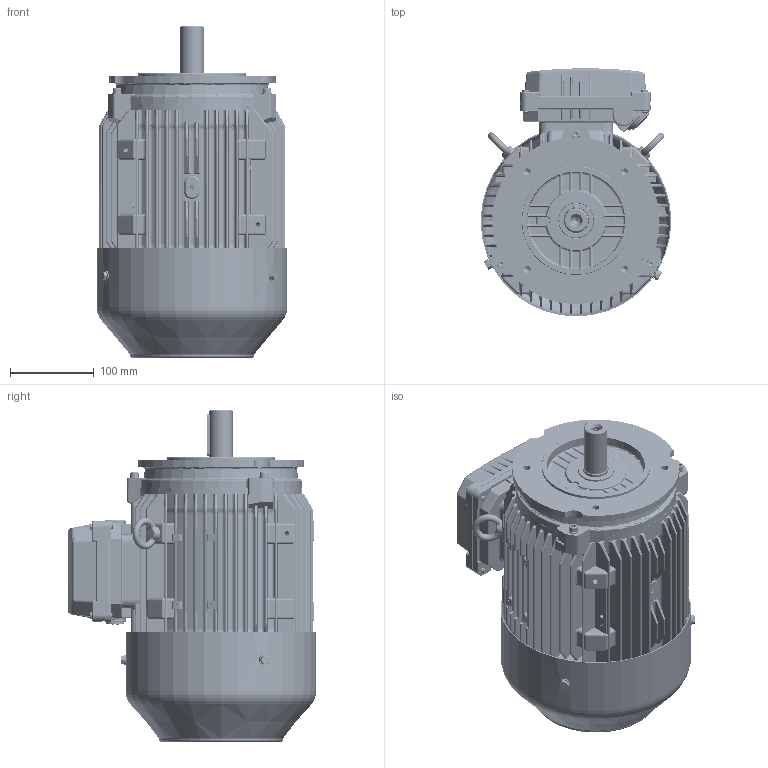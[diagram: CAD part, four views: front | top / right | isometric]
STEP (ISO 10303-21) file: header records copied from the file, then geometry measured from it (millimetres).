
FILE_DESCRIPTION (( 'STEP AP203' ), '1' );
FILE_NAME ('0210000275_RevB.STEP', '2019-04-29T09:44:38', ( '' ), ( '' ), 'SwSTEP 2.0', 'SolidWorks 2015', '' );
FILE_SCHEMA (( 'CONFIG_CONTROL_DESIGN' ));
Length unit declared in the file: inch
Products named in the file (1): 0210000275_RevB
Bounding box: 228.4 x 297.7 x 397.5 mm (x, y, z)
Volume: 4235883.5 mm3; surface area: 1536650.6 mm2
Topology: 38 solids, 38 shells, 8137 faces, 20435 edges, 12324 vertices
Faces by surface type: cylinder 2791, bspline 2024, plane 1596, cone 807, torus 790, sphere 129
Entity records: 311518 total; most frequent: CARTESIAN_POINT 130173, ORIENTED_EDGE 40476, DIRECTION 35700, EDGE_CURVE 20238, AXIS2_PLACEMENT_3D 14475, VERTEX_POINT 12314, EDGE_LOOP 8684, CIRCLE 8361
